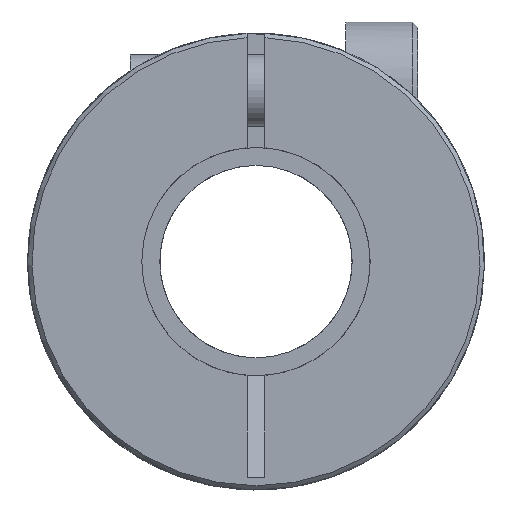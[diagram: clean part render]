
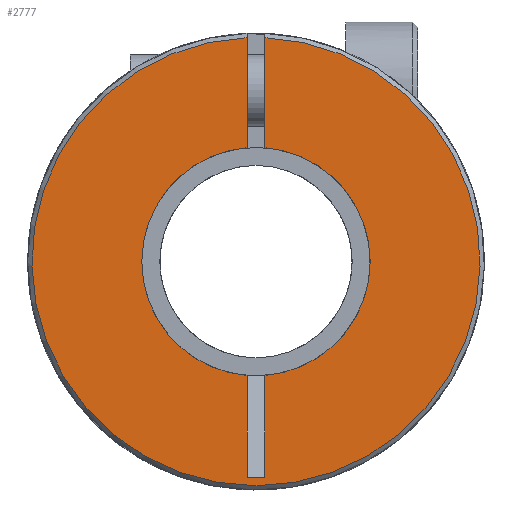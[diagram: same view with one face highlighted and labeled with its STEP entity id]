
A CAD part, front view. The second image highlights one B-rep face of the part: STEP entity #2777.
In plain terms, the highlighted planar face has unit normal (0, -1, 0).
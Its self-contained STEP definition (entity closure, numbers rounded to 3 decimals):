
#1=DIRECTION('',(0.,0.,-1.));
#2=VECTOR('',#1,3.06);
#3=CARTESIAN_POINT('',(-0.25,-11.45,6.225));
#4=LINE('',#3,#2);
#5=CARTESIAN_POINT('',(0.,-11.45,0.));
#6=DIRECTION('',(0.,1.,0.));
#7=DIRECTION('',(-1.,0.,0.));
#8=AXIS2_PLACEMENT_3D('',#5,#6,#7);
#10=CARTESIAN_POINT('',(0.,-11.45,0.));
#11=DIRECTION('',(0.,1.,0.));
#12=DIRECTION('',(-0.079,0.,-0.997));
#13=AXIS2_PLACEMENT_3D('',#10,#11,#12);
#15=DIRECTION('',(0.,0.,-1.));
#16=VECTOR('',#15,2.835);
#17=CARTESIAN_POINT('',(-0.25,-11.45,-3.165));
#18=LINE('',#17,#16);
#19=DIRECTION('',(1.,0.,0.));
#20=VECTOR('',#19,0.5);
#21=CARTESIAN_POINT('',(-0.25,-11.45,-6.));
#22=LINE('',#21,#20);
#23=DIRECTION('',(0.,0.,-1.));
#24=VECTOR('',#23,2.835);
#25=CARTESIAN_POINT('',(0.25,-11.45,-3.165));
#26=LINE('',#25,#24);
#27=DIRECTION('',(0.,0.,-1.));
#28=VECTOR('',#27,3.06);
#29=CARTESIAN_POINT('',(0.25,-11.45,6.225));
#30=LINE('',#29,#28);
#54=CARTESIAN_POINT('',(0.,-11.45,0.));
#55=DIRECTION('',(0.,1.,0.));
#56=DIRECTION('',(0.079,0.,0.997));
#57=AXIS2_PLACEMENT_3D('',#54,#55,#56);
#2281=CARTESIAN_POINT('',(0.,-11.45,0.));
#2282=DIRECTION('',(0.,-1.,0.));
#2283=DIRECTION('',(-0.04,0.,0.999));
#2284=AXIS2_PLACEMENT_3D('',#2281,#2282,#2283);
#2437=CARTESIAN_POINT('',(-3.175,-11.45,0.));
#2438=VERTEX_POINT('',#2437);
#2520=CARTESIAN_POINT('',(-0.25,-11.45,-6.));
#2522=VERTEX_POINT('',#2520);
#2524=CARTESIAN_POINT('',(0.25,-11.45,-6.));
#2526=VERTEX_POINT('',#2524);
#2575=CARTESIAN_POINT('',(-0.25,-11.45,6.225));
#2576=CARTESIAN_POINT('',(-0.25,-11.45,3.165));
#2577=VERTEX_POINT('',#2575);
#2578=VERTEX_POINT('',#2576);
#2579=CARTESIAN_POINT('',(-0.25,-11.45,-3.165));
#2580=VERTEX_POINT('',#2579);
#2581=CARTESIAN_POINT('',(0.25,-11.45,6.225));
#2582=CARTESIAN_POINT('',(0.25,-11.45,3.165));
#2583=VERTEX_POINT('',#2581);
#2584=VERTEX_POINT('',#2582);
#2585=CARTESIAN_POINT('',(0.25,-11.45,-3.165));
#2586=VERTEX_POINT('',#2585);
#2752=CARTESIAN_POINT('',(0.,-11.45,0.));
#2753=DIRECTION('',(0.,1.,0.));
#2754=DIRECTION('',(1.,0.,0.));
#2755=AXIS2_PLACEMENT_3D('',#2752,#2753,#2754);
#2756=PLANE('',#2755);
#2758=ORIENTED_EDGE('',*,*,#2757,.T.);
#2760=ORIENTED_EDGE('',*,*,#2759,.F.);
#2762=ORIENTED_EDGE('',*,*,#2761,.F.);
#2764=ORIENTED_EDGE('',*,*,#2763,.T.);
#2766=ORIENTED_EDGE('',*,*,#2765,.T.);
#2768=ORIENTED_EDGE('',*,*,#2767,.F.);
#2770=ORIENTED_EDGE('',*,*,#2769,.F.);
#2772=ORIENTED_EDGE('',*,*,#2771,.F.);
#2774=ORIENTED_EDGE('',*,*,#2773,.F.);
#2775=EDGE_LOOP('',(#2758,#2760,#2762,#2764,#2766,#2768,#2770,#2772,#2774));
#2776=FACE_OUTER_BOUND('',#2775,.F.);
#2777=ADVANCED_FACE('',(#2776),#2756,.F.);
#9=CIRCLE('',#8,3.175);
#14=CIRCLE('',#13,3.175);
#58=CIRCLE('',#57,3.175);
#2285=CIRCLE('',#2284,6.23);
#2757=EDGE_CURVE('',#2577,#2578,#4,.T.);
#2759=EDGE_CURVE('',#2438,#2578,#9,.T.);
#2761=EDGE_CURVE('',#2580,#2438,#14,.T.);
#2763=EDGE_CURVE('',#2580,#2522,#18,.T.);
#2765=EDGE_CURVE('',#2522,#2526,#22,.T.);
#2767=EDGE_CURVE('',#2586,#2526,#26,.T.);
#2769=EDGE_CURVE('',#2584,#2586,#58,.T.);
#2771=EDGE_CURVE('',#2583,#2584,#30,.T.);
#2773=EDGE_CURVE('',#2577,#2583,#2285,.T.);
